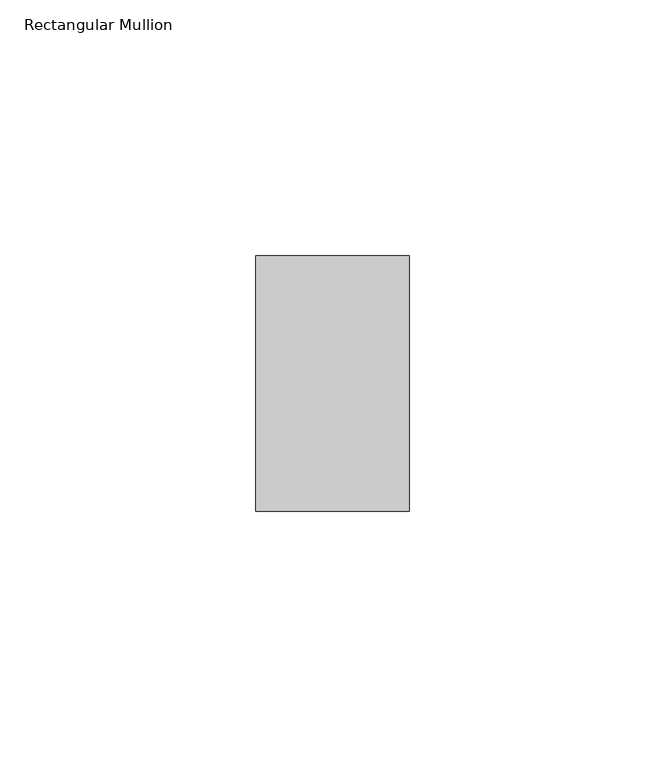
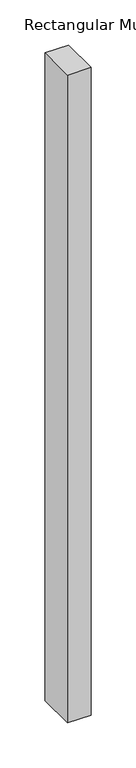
"""IFC4 building model written with IfcOpenShell, lengths in millimetres: member geometry, Rectangular Mullion : ARQ_REJA_MULL_50x30mm."""

from ifc_helpers import new_model, si_unit, frame, origin, place, context, project, spatial, polyline, outline, extrude, source, transform, mapped, element, save


def rectangular_mullion_c6d73319(model_context):
    return source(origin(), model_context, "Body", "SweptSolid", [
        extrude(outline(polyline([(0.0, 25.0), (0.0, -25.0), (-30.0, -25.0), (-30.0, 25.0), (0.0, 25.0)])), frame((0.0, 0.0, -876.6747023), z_axis=(0.0, 0.0, 1.0), x_axis=(1.0, 0.0, 0.0)), (0.0, 0.0, 1.0), 876.6747023),
    ])


if __name__ == "__main__":
    model = new_model("IFC4")
    model_context = context("Model", 3, world=origin())
    ifc_project = project(units=[si_unit("LENGTHUNIT", "METRE", prefix="MILLI")], contexts=[model_context])
    site = spatial("IfcSite", under=ifc_project)
    building = spatial("IfcBuilding", under=site)
    placement = place(None, origin())
    rectangular_mullion_shape = rectangular_mullion_c6d73319(model_context)
    element("IfcMember", 1, ObjectType="Rectangular Mullion : ARQ_REJA_MULL_50x30mm", at=placement, inside=building, context=model_context, shape_type="MappedRepresentation", body=[
        mapped(rectangular_mullion_shape, transform((0.0, 0.0, 0.0), x_axis=(1.0, 0.0, 0.0), y_axis=(0.0, 1.0, 0.0), z_axis=(0.0, 0.0, 1.0))),
    ])
    save(model, "model.ifc")
